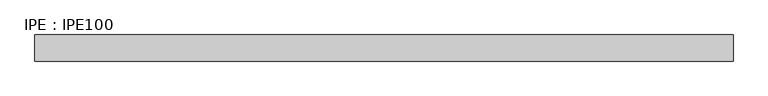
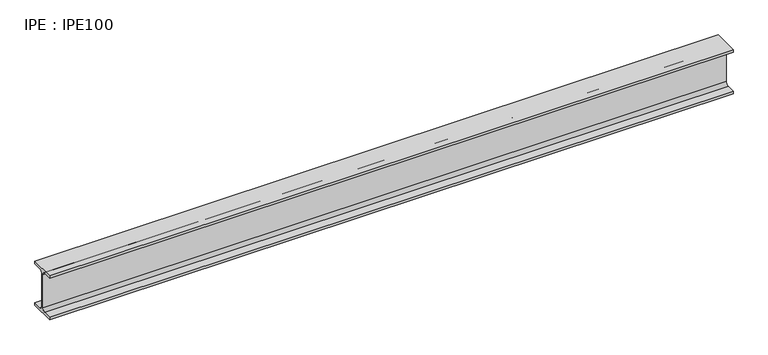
"""IFC4 building model written with IfcOpenShell, lengths in millimetres: beam geometry, IPE : IPE100."""

from ifc_helpers import new_model, si_unit, point, frame, frame_2d, origin, place, context, project, spatial, polyline, circle_curve, trimmed, segment, composite_curve, outline, extrude, source, transform, mapped, element, save


def ipe_ipe100_890dbe89(model_context):
    return source(origin(), model_context, "Body", "SweptSolid", [
        extrude(outline(composite_curve([segment(polyline([(27.5, -44.3), (27.5, -50.0), (-27.5, -50.0), (-27.5, -44.3), (-9.05, -44.3)]), True, "CONTINUOUS"), segment(trimmed(circle_curve(frame_2d((-9.05, -37.3)), 7.0), [point((-9.05, -44.3))], [point((-2.05, -37.3))], True, "CARTESIAN"), True, "CONTINUOUS"), segment(polyline([(-2.05, -37.3), (-2.05, 37.3)]), True, "CONTINUOUS"), segment(trimmed(circle_curve(frame_2d((-9.05, 37.3)), 7.0), [point((-2.05, 37.3))], [point((-9.05, 44.3))], True, "CARTESIAN"), True, "CONTINUOUS"), segment(polyline([(-9.05, 44.3), (-27.5, 44.3), (-27.5, 50.0), (27.5, 50.0), (27.5, 44.3), (9.05, 44.3)]), True, "CONTINUOUS"), segment(trimmed(circle_curve(frame_2d((9.05, 37.3)), 7.0), [point((9.05, 44.3))], [point((2.05, 37.3))], True, "CARTESIAN"), True, "CONTINUOUS"), segment(polyline([(2.05, 37.3), (2.05, -37.3)]), True, "CONTINUOUS"), segment(trimmed(circle_curve(frame_2d((9.05, -37.3)), 7.0), [point((2.05, -37.3))], [point((9.05, -44.3))], True, "CARTESIAN"), True, "CONTINUOUS"), segment(polyline([(9.05, -44.3), (27.5, -44.3)]), True, "CONTINUOUS")], self_intersect=False)), frame((-734.35, 0.0, 0.0), z_axis=(1.0, 0.0, 0.0), x_axis=(0.0, 1.0, 0.0)), (0.0, 0.0, 1.0), 1468.7),
    ])


if __name__ == "__main__":
    model = new_model("IFC4")
    model_context = context("Model", 3, world=origin())
    ifc_project = project(units=[si_unit("LENGTHUNIT", "METRE", prefix="MILLI")], contexts=[model_context])
    site = spatial("IfcSite", under=ifc_project)
    building = spatial("IfcBuilding", under=site)
    placement = place(None, origin())
    ipe_ipe100_shape = ipe_ipe100_890dbe89(model_context)
    element("IfcBeam", 1, ObjectType="IPE : IPE100", at=placement, inside=building, context=model_context, shape_type="MappedRepresentation", body=[
        mapped(ipe_ipe100_shape, transform((0.0, 0.0, 0.0), x_axis=(1.0, 0.0, 0.0), y_axis=(0.0, 1.0, 0.0), z_axis=(0.0, 0.0, 1.0))),
    ])
    save(model, "model.ifc")
